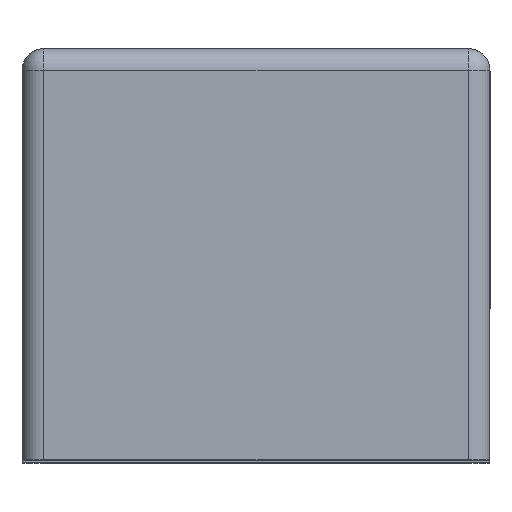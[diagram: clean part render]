
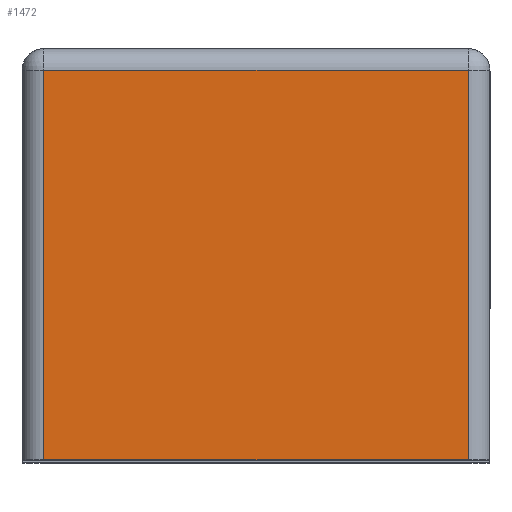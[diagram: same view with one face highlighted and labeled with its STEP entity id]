
A CAD part, top view. The second image highlights one B-rep face of the part: STEP entity #1472.
In plain terms, the highlighted planar face has unit normal (0, 0, 1).
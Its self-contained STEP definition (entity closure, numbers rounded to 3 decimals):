
#180 = VECTOR ( 'NONE', #834, 1000. ) ;
#182 = AXIS2_PLACEMENT_3D ( 'NONE', #1042, #1043, #1044 ) ;
#216 = EDGE_LOOP ( 'NONE', ( #330, #352, #462, #351 ) ) ;
#330 = ORIENTED_EDGE ( 'NONE', *, *, #1296, .T. ) ;
#351 = ORIENTED_EDGE ( 'NONE', *, *, #1415, .T. ) ;
#352 = ORIENTED_EDGE ( 'NONE', *, *, #1299, .T. ) ;
#462 = ORIENTED_EDGE ( 'NONE', *, *, #1430, .T. ) ;
#467 = VERTEX_POINT ( 'NONE', #543 ) ;
#478 = VERTEX_POINT ( 'NONE', #554 ) ;
#507 = VERTEX_POINT ( 'NONE', #583 ) ;
#508 = VERTEX_POINT ( 'NONE', #584 ) ;
#543 = CARTESIAN_POINT ( 'NONE',  ( -4.85, 8.9, 23.5 ) ) ;
#554 = CARTESIAN_POINT ( 'NONE',  ( 4.85, 8.9, 23.5 ) ) ;
#583 = CARTESIAN_POINT ( 'NONE',  ( 4.85, 0., 23.5 ) ) ;
#584 = CARTESIAN_POINT ( 'NONE',  ( -4.85, 0., 23.5 ) ) ;
#628 = LINE ( 'NONE', #629, #886 ) ;
#629 = CARTESIAN_POINT ( 'NONE',  ( -5.35, 8.9, 23.5 ) ) ;
#630 = DIRECTION ( 'NONE',  ( -1., 0., 0. ) ) ;
#637 = LINE ( 'NONE', #638, #883 ) ;
#638 = CARTESIAN_POINT ( 'NONE',  ( -4.85, 9.4, 23.5 ) ) ;
#639 = DIRECTION ( 'NONE',  ( 0., -1., 0. ) ) ;
#832 = LINE ( 'NONE', #833, #180 ) ;
#833 = CARTESIAN_POINT ( 'NONE',  ( 4.85, 9.4, 23.5 ) ) ;
#834 = DIRECTION ( 'NONE',  ( 0., 1., 0. ) ) ;
#868 = VECTOR ( 'NONE', #914, 1000. ) ;
#883 = VECTOR ( 'NONE', #639, 1000. ) ;
#886 = VECTOR ( 'NONE', #630, 1000. ) ;
#912 = LINE ( 'NONE', #913, #868 ) ;
#913 = CARTESIAN_POINT ( 'NONE',  ( -5.35, 0., 23.5 ) ) ;
#914 = DIRECTION ( 'NONE',  ( 1., 0., 0. ) ) ;
#1041 = PLANE ( 'NONE',  #182 ) ;
#1042 = CARTESIAN_POINT ( 'NONE',  ( -5.35, 9.4, 23.5 ) ) ;
#1043 = DIRECTION ( 'NONE',  ( 0., 0., -1. ) ) ;
#1044 = DIRECTION ( 'NONE',  ( -1., 0., 0. ) ) ;
#1296 = EDGE_CURVE ( 'NONE', #478, #467, #628, .T. ) ;
#1299 = EDGE_CURVE ( 'NONE', #467, #508, #637, .T. ) ;
#1344 = FACE_OUTER_BOUND ( 'NONE', #216, .T. ) ;
#1415 = EDGE_CURVE ( 'NONE', #507, #478, #832, .T. ) ;
#1430 = EDGE_CURVE ( 'NONE', #508, #507, #912, .T. ) ;
#1472 = ADVANCED_FACE ( 'NONE', ( #1344 ), #1041, .F. ) ;
